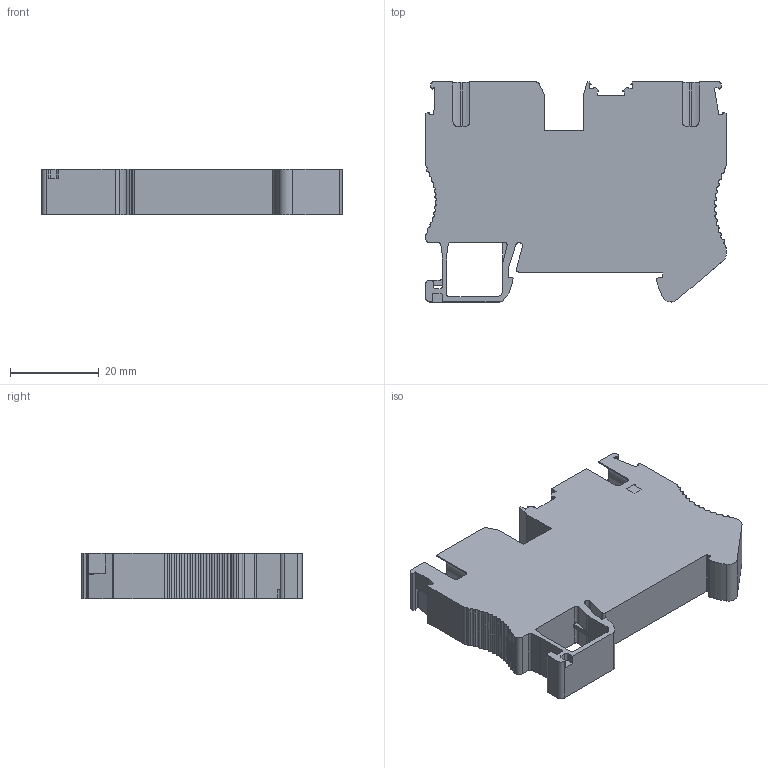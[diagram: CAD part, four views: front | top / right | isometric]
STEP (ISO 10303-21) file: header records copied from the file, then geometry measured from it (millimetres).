
FILE_DESCRIPTION((''),'2;1');
FILE_NAME('UPT-10ASSY','2024-03-29T15:52:46',('Administrator'),(''),'CREO PARAMETRIC BY PTC INC, 2018050','CREO PARAMETRIC BY PTC INC, 2018050','');
FILE_SCHEMA(('CONFIG_CONTROL_DESIGN'));
Length unit declared in the file: millimetre
Products named in the file (1): UPT-10ASSY
Bounding box: 67.7 x 49.55 x 10.15 mm (x, y, z)
Volume: 24199 mm3; surface area: 11005.3 mm2
Topology: 1 solids, 7 shells, 632 faces, 1773 edges, 1129 vertices
Faces by surface type: cylinder 287, plane 265, sphere 30, cone 28, torus 14, bspline 8
Entity records: 21255 total; most frequent: CARTESIAN_POINT 4847, ORIENTED_EDGE 3490, DIRECTION 3467, EDGE_CURVE 1745, AXIS2_PLACEMENT_3D 1233, VERTEX_POINT 1129, VECTOR 1001, LINE 1001
